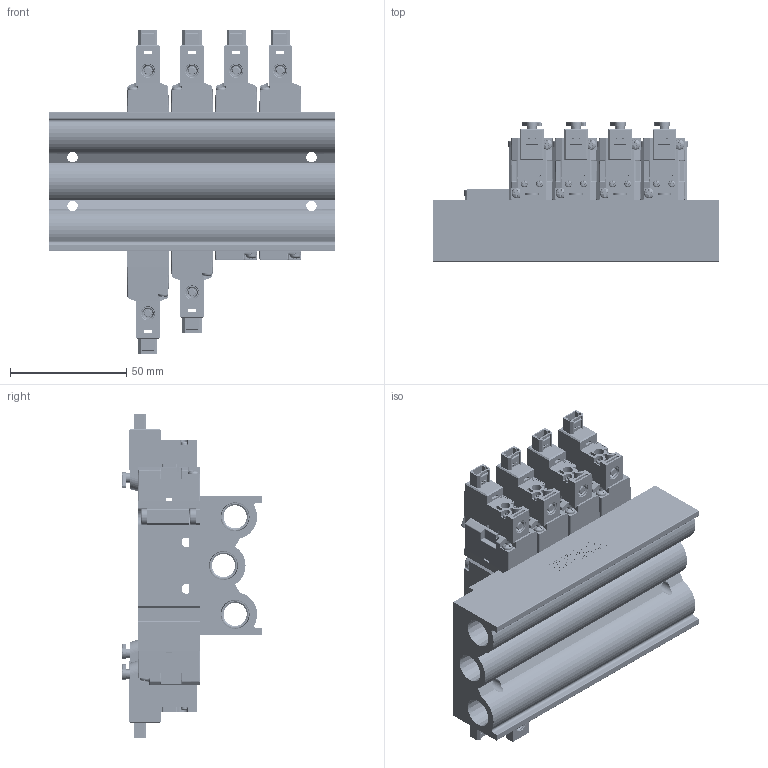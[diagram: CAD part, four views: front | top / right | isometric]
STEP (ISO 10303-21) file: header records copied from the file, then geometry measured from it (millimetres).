
FILE_DESCRIPTION (( 'STEP AP214' ), '1' );
FILE_NAME ('NVSC-7500-1(2023-11°æ).STEP', '2023-11-15T06:15:17', ( '' ), ( '' ), 'SwSTEP 2.0', 'SolidWorks 2015', '' );
FILE_SCHEMA (( 'AUTOMOTIVE_DESIGN' ));
Length unit declared in the file: millimetre
Products named in the file (19): NVS-7500屳唳; NVS-7500-C01_NVS7500掛闚(01); NVSC-7532-1(2023-11唳); NVS-7500標準式底座; NVSC-7500傷屳瞎; M2.5S華司; NVSC-7522-1(2023-11唳); HBA200手動操作器旋鈕(RD0226); NVS-7500-K03_NVS-7500?簧回位端蓋-(塑膠射出)(X1); NVSC-7521-1(2023-11唳); OP0188-7xiandaozuo; M2.5x0.45x14.5-十字圓頭螺栓; M2.5x0.45x6-十字圓頭螺栓; NVSC-7500引導閥組; HB10L-00(侏慳); M4x30蹟緲; NVSC-7500-1(2023-11唳); M4x10蹟緲; NVS-7500-D01_NVS7500笢釱
Assembly tree (40 placements, depth 4):
  NVSC-7500-1(2023-11唳)
    NVS-7500標準式底座
    NVSC-7521-1(2023-11唳)  x2
      NVS-7500-C01_NVS7500掛闚(01)
      NVSC-7500引導閥組
        OP0188-7xiandaozuo
        HBA200手動操作器旋鈕(RD0226)
        M2.5x0.45x14.5-十字圓頭螺栓  x2
      HB10L-00(侏慳)
      NVSC-7500傷屳瞎
        NVS-7500-K03_NVS-7500?簧回位端蓋-(塑膠射出)(X1)
        M2.5x0.45x6-十字圓頭螺栓  x2
        M2.5S華司  x2
    NVSC-7522-1(2023-11唳)
      NVS-7500-C01_NVS7500掛闚(01)
      NVSC-7500引導閥組  x2
        OP0188-7xiandaozuo
        HBA200手動操作器旋鈕(RD0226)
        M2.5x0.45x14.5-十字圓頭螺栓
      HB10L-00(侏慳)  x2
    NVSC-7532-1(2023-11唳)
      NVS-7500-C01_NVS7500掛闚(01)
      NVSC-7500引導閥組  x2
        OP0188-7xiandaozuo
        HBA200手動操作器旋鈕(RD0226)
        M2.5x0.45x14.5-十字圓頭螺栓
      HB10L-00(侏慳)  x2
      NVS-7500-D01_NVS7500笢釱
    NVS-7500屳唳
    M4x30蹟緲  x8
    M4x10蹟緲  x2
Bounding box: 123 x 60.17 x 139.6 mm (x, y, z)
Volume: 292412.7 mm3; surface area: 127177 mm2
Topology: 69 solids, 99 shells, 5955 faces, 15368 edges, 9854 vertices
Faces by surface type: plane 3374, cylinder 1222, bspline 697, cone 426, torus 156, sphere 80
Entity records: 58594 total; most frequent: CARTESIAN_POINT 15365, ORIENTED_EDGE 8724, DIRECTION 6833, EDGE_CURVE 4362, VERTEX_POINT 2836, LINE 2489, VECTOR 2489, AXIS2_PLACEMENT_3D 2172
